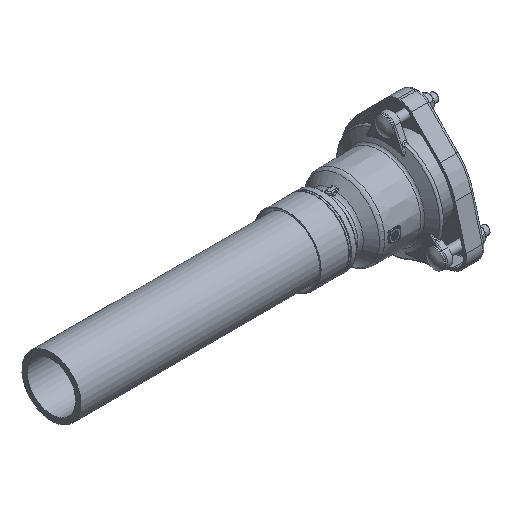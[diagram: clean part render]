
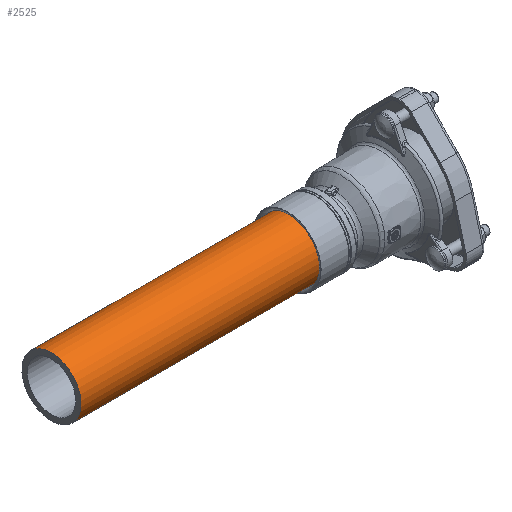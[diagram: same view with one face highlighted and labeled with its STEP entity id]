
A CAD part, isometric view. The second image highlights one B-rep face of the part: STEP entity #2525.
In plain terms, the highlighted cylindrical face has radius 55 mm (diameter 110 mm), a full revolution.
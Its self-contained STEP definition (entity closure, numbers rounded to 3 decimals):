
#2498=CARTESIAN_POINT('',(-137.063,0.,0.));
#2499=DIRECTION('',(-1.0,0.0,0.0));
#2500=DIRECTION('',(0.,0.903,0.43));
#2501=AXIS2_PLACEMENT_3D('',#2498,#2499,#2500);
#2502=CYLINDRICAL_SURFACE('',#2501,55.);
#2503=CARTESIAN_POINT('',(-160.563,-49.656,-23.648));
#2504=VERTEX_POINT('',#2503);
#2505=CARTESIAN_POINT('',(-160.563,0.,0.));
#2506=DIRECTION('',(1.0,0.,0.));
#2507=DIRECTION('',(0.,0.903,0.43));
#2508=AXIS2_PLACEMENT_3D('',#2505,#2506,#2507);
#2509=CIRCLE('',#2508,55.);
#2510=EDGE_CURVE('',#2504,#2504,#2509,.T.);
#2511=ORIENTED_EDGE('',*,*,#2510,.F.);
#2512=EDGE_LOOP('',(#2511));
#2513=FACE_OUTER_BOUND('',#2512,.T.);
#2514=CARTESIAN_POINT('',(-633.063,-49.656,-23.648));
#2515=VERTEX_POINT('',#2514);
#2516=CARTESIAN_POINT('',(-633.063,0.,0.));
#2517=DIRECTION('',(1.0,0.,0.));
#2518=DIRECTION('',(0.,0.903,0.43));
#2519=AXIS2_PLACEMENT_3D('',#2516,#2517,#2518);
#2520=CIRCLE('',#2519,55.);
#2521=EDGE_CURVE('',#2515,#2515,#2520,.T.);
#2522=ORIENTED_EDGE('',*,*,#2521,.T.);
#2523=EDGE_LOOP('',(#2522));
#2524=FACE_BOUND('',#2523,.T.);
#2525=ADVANCED_FACE('',(#2513,#2524),#2502,.T.);
